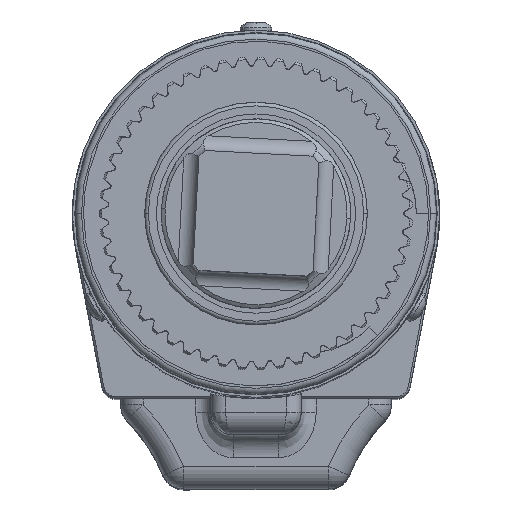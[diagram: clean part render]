
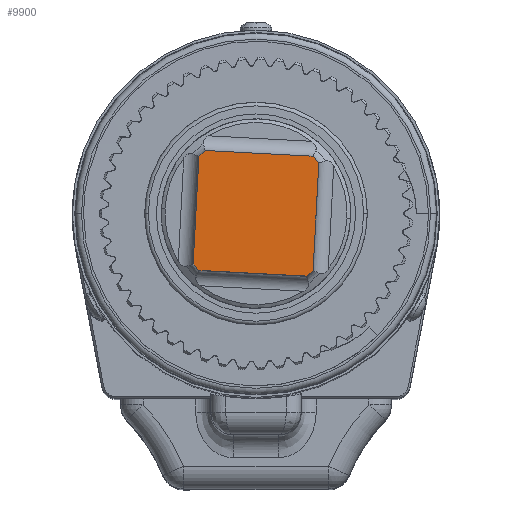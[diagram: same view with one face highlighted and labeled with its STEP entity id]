
A CAD part, top view. The second image highlights one B-rep face of the part: STEP entity #9900.
In plain terms, the highlighted planar face has unit normal (0, 0, 1).
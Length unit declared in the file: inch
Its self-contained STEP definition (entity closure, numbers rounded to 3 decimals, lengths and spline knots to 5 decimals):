
#47 = CARTESIAN_POINT ( 'NONE',  ( 0., 0., 5.7125 ) ) ;
#5108 = AXIS2_PLACEMENT_3D ( 'NONE', #73102, #17753, #82439 ) ;
#9283 = DIRECTION ( 'NONE',  ( 0.999, -0.053, 0. ) ) ;
#9595 = VECTOR ( 'NONE', #72974, 39.37008 ) ;
#9900 = ADVANCED_FACE ( 'NONE', ( #13063 ), #104505, .F. ) ;
#9920 = CIRCLE ( 'NONE', #20791, 0.67 ) ;
#13063 = FACE_OUTER_BOUND ( 'NONE', #13468, .T. ) ;
#13468 = EDGE_LOOP ( 'NONE', ( #75314, #73260, #73146, #52785, #32006, #93895, #46065, #96248 ) ) ;
#17753 = DIRECTION ( 'NONE',  ( 0., 0., 1. ) ) ;
#20565 = CARTESIAN_POINT ( 'NONE',  ( 0.47348, 0.47404, 5.7125 ) ) ;
#20791 = AXIS2_PLACEMENT_3D ( 'NONE', #47, #64751, #9283 ) ;
#22275 = DIRECTION ( 'NONE',  ( 0.999, -0.053, 0. ) ) ;
#22639 = CARTESIAN_POINT ( 'NONE',  ( 0.92221, -0.54821, 5.7125 ) ) ;
#25731 = EDGE_CURVE ( 'NONE', #77926, #35038, #92838, .T. ) ;
#29141 = DIRECTION ( 'NONE',  ( 0., 0., 1. ) ) ;
#29908 = VECTOR ( 'NONE', #50568, 39.37008 ) ;
#31448 = DIRECTION ( 'NONE',  ( 0., 0., 1. ) ) ;
#32006 = ORIENTED_EDGE ( 'NONE', *, *, #51222, .T. ) ;
#33332 = CARTESIAN_POINT ( 'NONE',  ( 0.03555, 0.66906, 5.7125 ) ) ;
#34303 = LINE ( 'NONE', #89269, #9595 ) ;
#35038 = VERTEX_POINT ( 'NONE', #102990 ) ;
#35329 = DIRECTION ( 'NONE',  ( 0., 0., -1. ) ) ;
#35720 = DIRECTION ( 'NONE',  ( -0.999, 0.053, 0. ) ) ;
#38068 = VERTEX_POINT ( 'NONE', #80438 ) ;
#38337 = AXIS2_PLACEMENT_3D ( 'NONE', #84537, #29141, #93870 ) ;
#43622 = VECTOR ( 'NONE', #106398, 39.37008 ) ;
#44852 = AXIS2_PLACEMENT_3D ( 'NONE', #33332, #35329, #35720 ) ;
#45627 = VECTOR ( 'NONE', #22275, 39.37008 ) ;
#46065 = ORIENTED_EDGE ( 'NONE', *, *, #83650, .T. ) ;
#50568 = DIRECTION ( 'NONE',  ( -0.999, 0.053, 0. ) ) ;
#51222 = EDGE_CURVE ( 'NONE', #120011, #119198, #105774, .T. ) ;
#52785 = ORIENTED_EDGE ( 'NONE', *, *, #116998, .F. ) ;
#53101 = CIRCLE ( 'NONE', #38337, 0.67 ) ;
#57121 = CARTESIAN_POINT ( 'NONE',  ( -0.42057, 0.52155, 5.7125 ) ) ;
#58080 = EDGE_CURVE ( 'NONE', #77926, #38068, #53101, .T. ) ;
#59461 = CARTESIAN_POINT ( 'NONE',  ( 0.42057, -0.52155, 5.7125 ) ) ;
#61631 = EDGE_CURVE ( 'NONE', #92489, #35038, #9920, .T. ) ;
#64751 = DIRECTION ( 'NONE',  ( 0., 0., 1. ) ) ;
#67619 = VERTEX_POINT ( 'NONE', #20565 ) ;
#69096 = CARTESIAN_POINT ( 'NONE',  ( -0.54821, -0.92221, 5.7125 ) ) ;
#72974 = DIRECTION ( 'NONE',  ( -0.053, -0.999, 0. ) ) ;
#73102 = CARTESIAN_POINT ( 'NONE',  ( 0., 0., 5.7125 ) ) ;
#73146 = ORIENTED_EDGE ( 'NONE', *, *, #58080, .T. ) ;
#73260 = ORIENTED_EDGE ( 'NONE', *, *, #25731, .F. ) ;
#75314 = ORIENTED_EDGE ( 'NONE', *, *, #61631, .T. ) ;
#77621 = CARTESIAN_POINT ( 'NONE',  ( -0.92221, 0.54821, 5.7125 ) ) ;
#77926 = VERTEX_POINT ( 'NONE', #115213 ) ;
#78130 = CIRCLE ( 'NONE', #106596, 0.67 ) ;
#80438 = CARTESIAN_POINT ( 'NONE',  ( -0.47348, -0.47404, 5.7125 ) ) ;
#82439 = DIRECTION ( 'NONE',  ( 0.999, -0.053, 0. ) ) ;
#83650 = EDGE_CURVE ( 'NONE', #100806, #67619, #78130, .T. ) ;
#84537 = CARTESIAN_POINT ( 'NONE',  ( 0., 0., 5.7125 ) ) ;
#86830 = CARTESIAN_POINT ( 'NONE',  ( 0., 0., 5.7125 ) ) ;
#89269 = CARTESIAN_POINT ( 'NONE',  ( 0.54821, 0.92221, 5.7125 ) ) ;
#92020 = CARTESIAN_POINT ( 'NONE',  ( 0.47404, -0.47348, 5.7125 ) ) ;
#92489 = VERTEX_POINT ( 'NONE', #57121 ) ;
#92838 = LINE ( 'NONE', #69096, #43622 ) ;
#93870 = DIRECTION ( 'NONE',  ( 0.999, -0.053, 0. ) ) ;
#93895 = ORIENTED_EDGE ( 'NONE', *, *, #111266, .F. ) ;
#94407 = CARTESIAN_POINT ( 'NONE',  ( 0.52155, 0.42057, 5.7125 ) ) ;
#94856 = LINE ( 'NONE', #77621, #45627 ) ;
#96164 = DIRECTION ( 'NONE',  ( 0.999, -0.053, 0. ) ) ;
#96248 = ORIENTED_EDGE ( 'NONE', *, *, #96778, .F. ) ;
#96778 = EDGE_CURVE ( 'NONE', #92489, #67619, #94856, .T. ) ;
#100806 = VERTEX_POINT ( 'NONE', #94407 ) ;
#100878 = LINE ( 'NONE', #22639, #29908 ) ;
#102990 = CARTESIAN_POINT ( 'NONE',  ( -0.47404, 0.47348, 5.7125 ) ) ;
#104505 = PLANE ( 'NONE',  #44852 ) ;
#105774 = CIRCLE ( 'NONE', #5108, 0.67 ) ;
#106398 = DIRECTION ( 'NONE',  ( 0.053, 0.999, 0. ) ) ;
#106596 = AXIS2_PLACEMENT_3D ( 'NONE', #86830, #31448, #96164 ) ;
#111266 = EDGE_CURVE ( 'NONE', #100806, #119198, #34303, .T. ) ;
#115213 = CARTESIAN_POINT ( 'NONE',  ( -0.52155, -0.42057, 5.7125 ) ) ;
#116998 = EDGE_CURVE ( 'NONE', #120011, #38068, #100878, .T. ) ;
#119198 = VERTEX_POINT ( 'NONE', #92020 ) ;
#120011 = VERTEX_POINT ( 'NONE', #59461 ) ;
